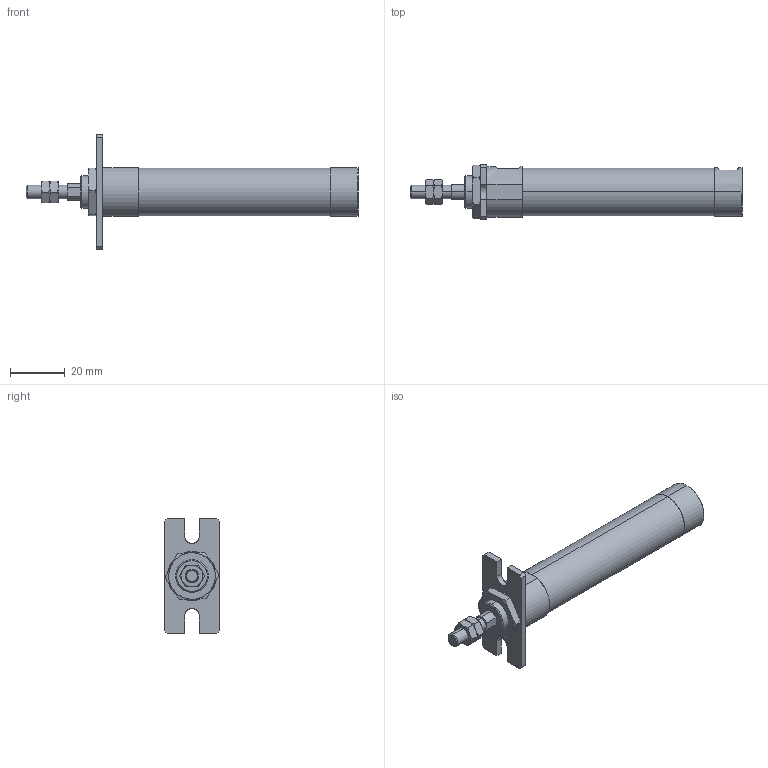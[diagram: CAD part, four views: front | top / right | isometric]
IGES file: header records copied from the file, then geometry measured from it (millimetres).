
Start section: SolidWorks IGES file using analytic representation for surfaces
Global section: file name: C:\Users\Toshiba\Desktop\ZGU2-16-45-A.IGS; native system: SolidWorks 2014; preprocessor: SolidWorks 2014; author: Toshiba; date: 160331.085949; units: millimetre
Bounding box: 121 x 20 x 42 mm (x, y, z)
Surface area: 8984.5 mm2 (no closed solid volume)
Topology: 0 solids, 0 shells, 129 faces, 1916 edges, 1912 vertices
Faces by surface type: bspline 93, revolution 36
